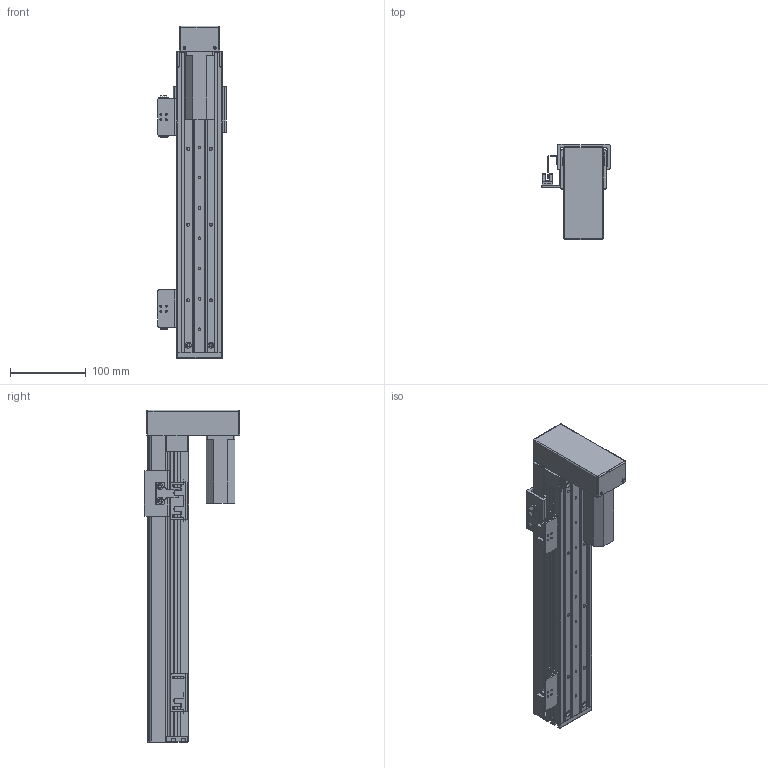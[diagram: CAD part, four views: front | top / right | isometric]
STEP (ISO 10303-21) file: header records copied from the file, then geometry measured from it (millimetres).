
FILE_DESCRIPTION (( 'STEP AP203' ), '1' );
FILE_NAME ('RY60FB-L1210-300-BK.SLDASM_250.step', '2021-02-23T00:55:20', ( '盈信电脑' ), ( '东莞市道滘镇水果街19号' ), 'SwSTEP 2.0', 'SolidWorks 2012', '' );
FILE_SCHEMA (( 'CONFIG_CONTROL_DESIGN' ));
Length unit declared in the file: millimetre
Products named in the file (15): RY60FB-L1210-300-BK.SLDASM_250; RY60FB-狟殏萇儂假蚾啣; RY60FB-蛌殏萇儂欶; 覜茼ん674; RY60FB-674嫖萇耀輸; RY60FB-感应器674光电安装座; RY60FB綴裔啣; 侂狟100W; RY80俋离覜茼え; RY60FB转折电机端支撑座; 滅袉蝶18-10; RY60FB-臏賑輸; RY60FB-蛌殏奻裔-300-BK_250; RY60FB-蛌殏菁釱-300-BK_250
Assembly tree (20 placements, depth 3):
  RY60FB-L1210-300-BK.SLDASM_250
    RY60FB-蛌殏菁釱-300-BK_250
    RY60FB-臏賑輸
    滅袉蝶18-10  x4
    RY60FB-蛌殏奻裔-300-BK_250
    侂狟100W
    RY60FB綴裔啣
    RY60FB转折电机端支撑座
    RY80俋离覜茼え
    RY60FB-674嫖萇耀輸
      RY60FB-感应器674光电安装座
      覜茼ん674  x2
    RY60FB-674嫖萇耀輸
      RY60FB-感应器674光电安装座
      覜茼ん674
    RY60FB-狟殏萇儂假蚾啣
    RY60FB-蛌殏萇儂欶
Bounding box: 90 x 125.45 x 438 mm (x, y, z)
Volume: 679364.7 mm3; surface area: 365358.2 mm2
Topology: 18 solids, 18 shells, 1075 faces, 2926 edges, 1860 vertices
Faces by surface type: plane 529, cylinder 441, cone 97, bspline 8
Entity records: 30759 total; most frequent: CARTESIAN_POINT 6009, DIRECTION 4846, ORIENTED_EDGE 4748, EDGE_CURVE 2374, AXIS2_PLACEMENT_3D 1685, VERTEX_POINT 1536, VECTOR 1476, LINE 1476
